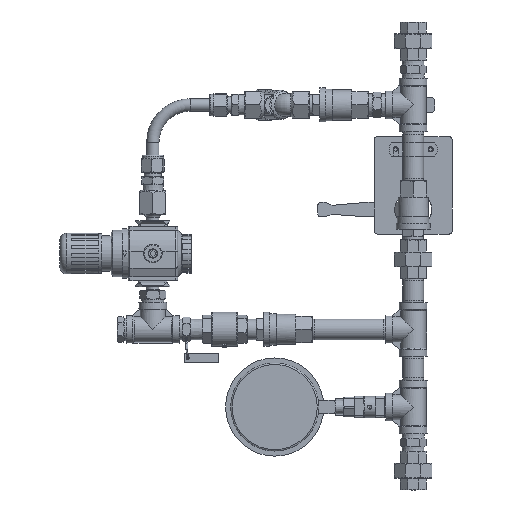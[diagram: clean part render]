
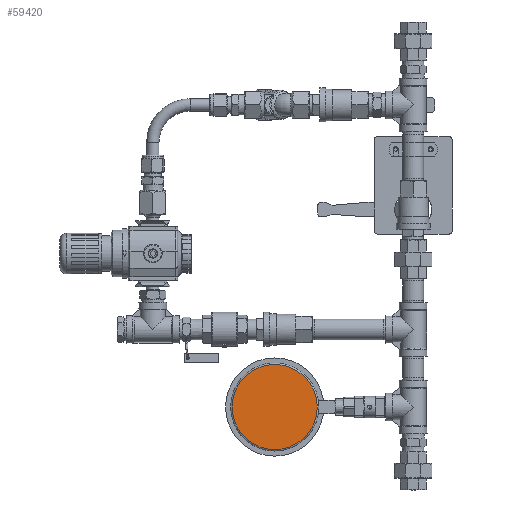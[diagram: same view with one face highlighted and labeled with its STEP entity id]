
A CAD part, left-side view. The second image highlights one B-rep face of the part: STEP entity #59420.
In plain terms, the highlighted planar face has unit normal (-1, 0, 0).
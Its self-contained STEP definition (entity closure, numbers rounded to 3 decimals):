
#4643=CIRCLE('',#62791,43.75);
#7736=FACE_OUTER_BOUND('',#11237,.T.);
#11237=EDGE_LOOP('',(#48346));
#26014=VERTEX_POINT('',#107611);
#33613=EDGE_CURVE('',#26014,#26014,#4643,.T.);
#48346=ORIENTED_EDGE('',*,*,#33613,.F.);
#53420=PLANE('',#62794);
#59420=ADVANCED_FACE('',(#7736),#53420,.F.);
#62791=AXIS2_PLACEMENT_3D('',#107613,#73426,#73427);
#62794=AXIS2_PLACEMENT_3D('',#107618,#73433,#73434);
#73426=DIRECTION('center_axis',(1.,0.,0.));
#73427=DIRECTION('ref_axis',(0.,0.,
-1.));
#73433=DIRECTION('center_axis',(1.,0.,0.));
#73434=DIRECTION('ref_axis',(0.,0.,
-1.));
#107611=CARTESIAN_POINT('',(-9.2,142.4,-239.35));
#107613=CARTESIAN_POINT('Origin',(-9.2,142.4,-283.1));
#107618=CARTESIAN_POINT('Origin',(-9.2,142.4,-283.1));
